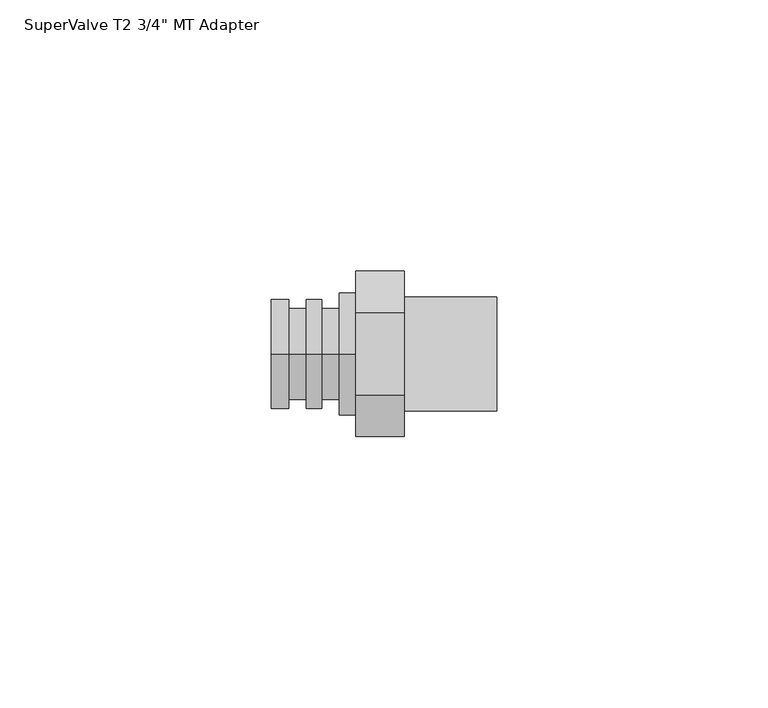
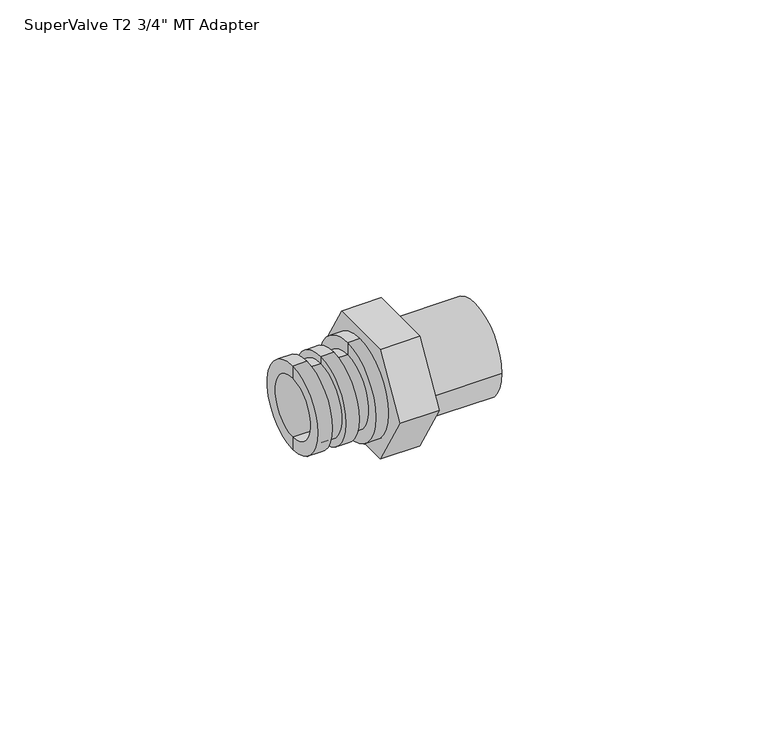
"""IFC4 building model written with IfcOpenShell, lengths in millimetres: valve geometry."""

from ifc_helpers import new_model, si_unit, point, frame, origin, origin_2d, place, context, project, spatial, polyline, circle_curve, trimmed, segment, composite_curve, outline, extrude, source, transform, mapped, element, save
from ifc_brep_helpers import plane_surface, cylinder_surface, revolved_surface, advanced_brep


def valve_fd31198a(model_context):
    return source(origin(), model_context, "Body", "SolidModel", [
        extrude(outline(polyline([(-15.2420471, 0.0), (-7.6210236, 13.2), (7.6210236, 13.2), (15.2420471, 0.0), (7.6210236, -13.2), (-7.6210236, -13.2), (-15.2420471, 0.0)])), frame((15.5, 0.0, 0.0), z_axis=(1.0, 0.0, 0.0), x_axis=(0.0, 1.0, 0.0)), (0.0, 0.0, 1.0), 9.0),
        extrude(outline(composite_curve([segment(trimmed(circle_curve(origin_2d(), 10.5), [point((-10.5, 0.0))], [point((10.5, 0.0))], False, "CARTESIAN"), True, "CONTINUOUS"), segment(trimmed(circle_curve(origin_2d(), 10.5), [point((10.5, 0.0))], [point((-10.5, 0.0))], False, "CARTESIAN"), True, "CONTINUOUS")], self_intersect=False), holes=[composite_curve([segment(trimmed(circle_curve(origin_2d(), 6.0), [point((-6.0, 0.0))], [point((6.0, 0.0))], True, "CARTESIAN"), True, "CONTINUOUS"), segment(trimmed(circle_curve(origin_2d(), 6.0), [point((6.0, 0.0))], [point((-6.0, 0.0))], True, "CARTESIAN"), True, "CONTINUOUS")], self_intersect=False)]), frame((24.5, 0.0, 0.0), z_axis=(1.0, 0.0, 0.0), x_axis=(0.0, 1.0, 0.0)), (0.0, 0.0, 1.0), 17.0),
        advanced_brep(
        [(12.5, 0.0, -11.25), (12.5, 0.0, 11.25), (15.5, 0.0, 11.25), (15.5, 0.0, -11.25), (15.5, 0.0, 6.0), (15.5, 0.0, -6.0), (12.5, 0.0, -6.0), (12.5, 0.0, 6.0), (12.5, 0.0, 7.1), (12.5, 0.0, -7.1), (12.5, 0.0, -8.4), (12.5, 0.0, 8.4), (9.3, 0.0, -8.4), (9.3, 0.0, 8.4), (9.3, 0.0, -10.05), (9.3, 0.0, 10.05), (6.4, 0.0, -10.05), (6.4, 0.0, 10.05), (6.4, 0.0, -8.4), (6.4, 0.0, 8.4), (3.2, 0.0, -8.4), (3.2, 0.0, 8.4), (3.2, 0.0, -10.05), (3.2, 0.0, 10.05), (0.0, 0.0, -10.05), (0.0, 0.0, 10.05), (0.0, 0.0, -7.1), (0.0, 0.0, 7.1)],
        [
            (0, 1, circle_curve(frame((12.5, 0.0, 0.0), z_axis=(1.0, 0.0, 0.0), x_axis=(0.0, 0.0, 1.0)), 11.25)),
            (1, 2),
            (2, 3, circle_curve(frame((15.5, 0.0, 0.0), z_axis=(-1.0, 0.0, 0.0), x_axis=(0.0, 0.0, 1.0)), 11.25)),
            (3, 0),
            (1, 0, circle_curve(frame((12.5, 0.0, 0.0), z_axis=(1.0, 0.0, 0.0), x_axis=(0.0, 0.0, 1.0)), 11.25)),
            (3, 2, circle_curve(frame((15.5, 0.0, 0.0), z_axis=(-1.0, 0.0, 0.0), x_axis=(0.0, 0.0, 1.0)), 11.25)),
            (2, 4),
            (4, 5, circle_curve(frame((15.5, 0.0, 0.0), z_axis=(-1.0, 0.0, 0.0), x_axis=(0.0, 0.0, 1.0)), 6.0)),
            (5, 3),
            (5, 4, circle_curve(frame((15.5, 0.0, 0.0), z_axis=(-1.0, 0.0, 0.0), x_axis=(0.0, 0.0, 1.0)), 6.0)),
            (6, 7, circle_curve(frame((12.5, 0.0, 0.0), z_axis=(1.0, 0.0, 0.0), x_axis=(0.0, 0.0, 1.0)), 6.0)),
            (7, 8),
            (8, 9, circle_curve(frame((12.5, 0.0, 0.0), z_axis=(-1.0, 0.0, 0.0), x_axis=(0.0, 0.0, 1.0)), 7.1)),
            (9, 6),
            (7, 6, circle_curve(frame((12.5, 0.0, 0.0), z_axis=(1.0, 0.0, 0.0), x_axis=(0.0, 0.0, 1.0)), 6.0)),
            (9, 8, circle_curve(frame((12.5, 0.0, 0.0), z_axis=(-1.0, 0.0, 0.0), x_axis=(0.0, 0.0, 1.0)), 7.1)),
            (10, 11, circle_curve(frame((12.5, 0.0, 0.0), z_axis=(1.0, 0.0, 0.0), x_axis=(0.0, 0.0, 1.0)), 8.4)),
            (11, 1),
            (0, 10),
            (11, 10, circle_curve(frame((12.5, 0.0, 0.0), z_axis=(1.0, 0.0, 0.0), x_axis=(0.0, 0.0, 1.0)), 8.4)),
            (12, 13, circle_curve(frame((9.3, 0.0, 0.0), z_axis=(1.0, 0.0, 0.0), x_axis=(0.0, 0.0, 1.0)), 8.4)),
            (13, 11),
            (10, 12),
            (13, 12, circle_curve(frame((9.3, 0.0, 0.0), z_axis=(1.0, 0.0, 0.0), x_axis=(0.0, 0.0, 1.0)), 8.4)),
            (14, 15, circle_curve(frame((9.3, 0.0, 0.0), z_axis=(1.0, 0.0, 0.0), x_axis=(0.0, 0.0, 1.0)), 10.05)),
            (15, 13),
            (12, 14),
            (15, 14, circle_curve(frame((9.3, 0.0, 0.0), z_axis=(1.0, 0.0, 0.0), x_axis=(0.0, 0.0, 1.0)), 10.05)),
            (16, 17, circle_curve(frame((6.4, 0.0, 0.0), z_axis=(1.0, 0.0, 0.0), x_axis=(0.0, 0.0, 1.0)), 10.05)),
            (17, 15),
            (14, 16),
            (17, 16, circle_curve(frame((6.4, 0.0, 0.0), z_axis=(1.0, 0.0, 0.0), x_axis=(0.0, 0.0, 1.0)), 10.05)),
            (18, 19, circle_curve(frame((6.4, 0.0, 0.0), z_axis=(1.0, 0.0, 0.0), x_axis=(0.0, 0.0, 1.0)), 8.4)),
            (19, 17),
            (16, 18),
            (19, 18, circle_curve(frame((6.4, 0.0, 0.0), z_axis=(1.0, 0.0, 0.0), x_axis=(0.0, 0.0, 1.0)), 8.4)),
            (20, 21, circle_curve(frame((3.2, 0.0, 0.0), z_axis=(1.0, 0.0, 0.0), x_axis=(0.0, 0.0, 1.0)), 8.4)),
            (21, 19),
            (18, 20),
            (21, 20, circle_curve(frame((3.2, 0.0, 0.0), z_axis=(1.0, 0.0, 0.0), x_axis=(0.0, 0.0, 1.0)), 8.4)),
            (22, 23, circle_curve(frame((3.2, 0.0, 0.0), z_axis=(1.0, 0.0, 0.0), x_axis=(0.0, 0.0, 1.0)), 10.05)),
            (23, 21),
            (20, 22),
            (23, 22, circle_curve(frame((3.2, 0.0, 0.0), z_axis=(1.0, 0.0, 0.0), x_axis=(0.0, 0.0, 1.0)), 10.05)),
            (24, 25, circle_curve(frame((0.0, 0.0, 0.0), z_axis=(1.0, 0.0, 0.0), x_axis=(0.0, 0.0, 1.0)), 10.05)),
            (25, 23),
            (22, 24),
            (25, 24, circle_curve(frame((0.0, 0.0, 0.0), z_axis=(1.0, 0.0, 0.0), x_axis=(0.0, 0.0, 1.0)), 10.05)),
            (26, 27, circle_curve(frame((0.0, 0.0, 0.0), z_axis=(1.0, 0.0, 0.0), x_axis=(0.0, 0.0, 1.0)), 7.1)),
            (27, 25),
            (24, 26),
            (27, 26, circle_curve(frame((0.0, 0.0, 0.0), z_axis=(1.0, 0.0, 0.0), x_axis=(0.0, 0.0, 1.0)), 7.1)),
            (8, 27),
            (26, 9),
            (4, 7),
            (6, 5),
        ],
        [
            cylinder_surface(frame((19.0, 0.0, 0.0), z_axis=(-1.0, 0.0, 0.0), x_axis=(0.0, 0.0, 1.0)), 11.25),
            plane_surface(frame((15.5, 0.0, 0.0), z_axis=(1.0, 0.0, 0.0), x_axis=(0.0, 0.0, 1.0))),
            plane_surface(frame((12.5, 0.0, 0.0), z_axis=(-1.0, 0.0, 0.0), x_axis=(0.0, 0.0, 1.0))),
            cylinder_surface(frame((19.0, 0.0, 0.0), z_axis=(-1.0, 0.0, 0.0), x_axis=(0.0, 0.0, 1.0)), 8.4),
            plane_surface(frame((9.3, 0.0, 0.0), z_axis=(1.0, 0.0, 0.0), x_axis=(0.0, 0.0, 1.0))),
            cylinder_surface(frame((19.0, 0.0, 0.0), z_axis=(-1.0, 0.0, 0.0), x_axis=(0.0, 0.0, 1.0)), 10.05),
            plane_surface(frame((6.4, 0.0, 0.0), z_axis=(-1.0, 0.0, 0.0), x_axis=(0.0, 0.0, 1.0))),
            plane_surface(frame((3.2, 0.0, 0.0), z_axis=(1.0, 0.0, 0.0), x_axis=(0.0, 0.0, 1.0))),
            plane_surface(frame((0.0, 0.0, 0.0), z_axis=(-1.0, 0.0, 0.0), x_axis=(0.0, 0.0, 1.0))),
            revolved_surface(polyline([(0.0, 0.0, 7.1), (12.5, 0.0, 7.1)]), (19.0, 0.0, 0.0), (-1.0, 0.0, 0.0)),
            revolved_surface(polyline([(12.5, 0.0, 6.0), (15.5, 0.0, 6.0)]), (19.0, 0.0, 0.0), (-1.0, 0.0, 0.0)),
        ],
        [
            (0, [[1, 2, 3, 4]]),
            (0, [[5, -4, 6, -2]]),
            (1, [[-3, 7, 8, 9]]),
            (1, [[-6, -9, 10, -7]]),
            (2, [[11, 12, 13, 14]]),
            (2, [[15, -14, 16, -12]]),
            (2, [[17, 18, -1, 19]]),
            (2, [[20, -19, -5, -18]]),
            (3, [[21, 22, -17, 23]]),
            (3, [[24, -23, -20, -22]]),
            (4, [[25, 26, -21, 27]]),
            (4, [[28, -27, -24, -26]]),
            (5, [[29, 30, -25, 31]]),
            (5, [[32, -31, -28, -30]]),
            (6, [[33, 34, -29, 35]]),
            (6, [[36, -35, -32, -34]]),
            (3, [[37, 38, -33, 39]]),
            (3, [[40, -39, -36, -38]]),
            (7, [[41, 42, -37, 43]]),
            (7, [[44, -43, -40, -42]]),
            (5, [[45, 46, -41, 47]]),
            (5, [[48, -47, -44, -46]]),
            (8, [[49, 50, -45, 51]]),
            (8, [[52, -51, -48, -50]]),
            (9, [[-13, 53, -49, 54]]),
            (9, [[-16, -54, -52, -53]]),
            (10, [[-8, 55, -11, 56]]),
            (10, [[-10, -56, -15, -55]]),
        ],
    ),
    ])


if __name__ == "__main__":
    model = new_model("IFC4")
    model_context = context("Model", 3, world=origin())
    ifc_project = project(units=[si_unit("LENGTHUNIT", "METRE", prefix="MILLI")], contexts=[model_context])
    site = spatial("IfcSite", under=ifc_project)
    building = spatial("IfcBuilding", under=site)
    placement = place(None, origin())
    valve_shape = valve_fd31198a(model_context)
    element("IfcValve", 1, ObjectType="SuperValve T2 MT & FT Adapters : SuperValve T2 3/4\" MT Adapter", at=placement, inside=building, context=model_context, shape_type="MappedRepresentation", body=[
        mapped(valve_shape, transform((0.0, 0.0, 0.0), x_axis=(1.0, 0.0, 0.0), y_axis=(0.0, 1.0, 0.0), z_axis=(0.0, 0.0, 1.0))),
    ])
    save(model, "model.ifc")
